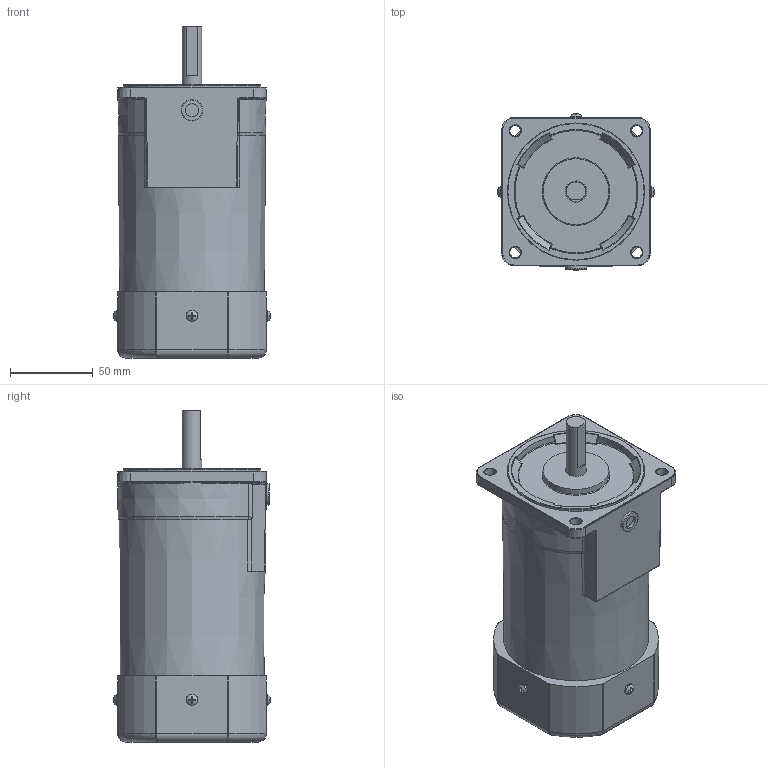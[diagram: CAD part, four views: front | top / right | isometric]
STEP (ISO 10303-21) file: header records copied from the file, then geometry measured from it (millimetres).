
FILE_DESCRIPTION (( 'STEP AP214' ), '1' );
FILE_NAME ('9IDD¤±-200F-A.STEP', '2025-01-13T03:00:04', ( '' ), ( '' ), 'SwSTEP 2.0', 'SolidWorks 2024', '' );
FILE_SCHEMA (( 'AUTOMOTIVE_DESIGN' ));
Length unit declared in the file: millimetre
Products named in the file (1): 9IDDㅁ-200F-A
Bounding box: 95.09 x 95.09 x 201 mm (x, y, z)
Volume: 1071547.6 mm3; surface area: 69877.9 mm2
Topology: 1 solids, 1 shells, 393 faces, 1003 edges, 632 vertices
Faces by surface type: plane 146, cylinder 137, bspline 36, torus 35, cone 33, sphere 6
Full cylindrical faces by diameter (mm): 6.1 x1, 6.5 x4, 7 x4, 8 x1, 12 x1, 13 x2, 83.1 x1
Entity records: 13016 total; most frequent: CARTESIAN_POINT 3903, DIRECTION 1891, ORIENTED_EDGE 1872, EDGE_CURVE 936, AXIS2_PLACEMENT_3D 750, VERTEX_POINT 618, EDGE_LOOP 474, FACE_OUTER_BOUND 413
